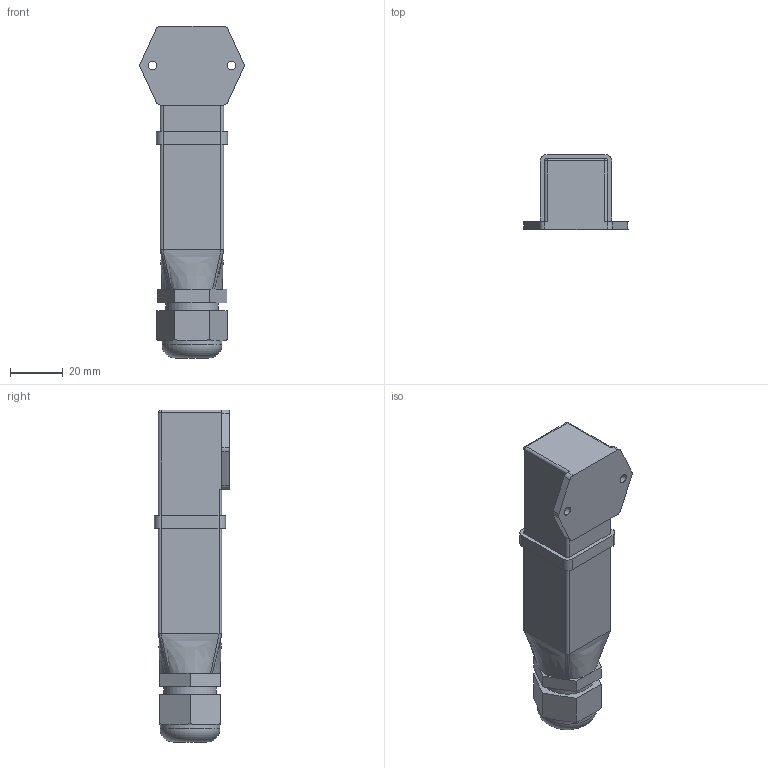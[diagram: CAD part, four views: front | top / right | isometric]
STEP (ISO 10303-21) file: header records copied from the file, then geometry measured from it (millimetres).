
FILE_DESCRIPTION(/* description */ (''),/* implementation_level */ '2;1');
FILE_NAME(/* name */ 'D:\Разъем 01.000\Модели\HQ 01.00.stp',/* time_stamp */ '2017-05-16T12:23:35+03:00',/* author */ ('t1'),/* organization */ ('Проектная группа'),/* preprocessor_version */ 'ST-DEVELOPER v16.1',/* originating_system */ 'Autodesk Inventor 2016',/* authorisation */ 'Петров ПП');
FILE_SCHEMA (('AUTOMOTIVE_DESIGN { 1 0 10303 214 3 1 1 }'));
Length unit declared in the file: millimetre
Products named in the file (1): HQ 01.00
Bounding box: 39.59 x 28.5 x 126 mm (x, y, z)
Volume: 69087.4 mm3; surface area: 14250.4 mm2
Topology: 1 solids, 1 shells, 83 faces, 207 edges, 131 vertices
Faces by surface type: plane 45, cylinder 26, bspline 8, sphere 2, torus 1, cone 1
Full cylindrical faces by diameter (mm): 3.3 x2, 12 x1, 20 x1, 22.74 x1
Entity records: 2647 total; most frequent: CARTESIAN_POINT 665, DIRECTION 409, ORIENTED_EDGE 396, EDGE_CURVE 198, AXIS2_PLACEMENT_3D 143, VERTEX_POINT 129, LINE 123, VECTOR 123
